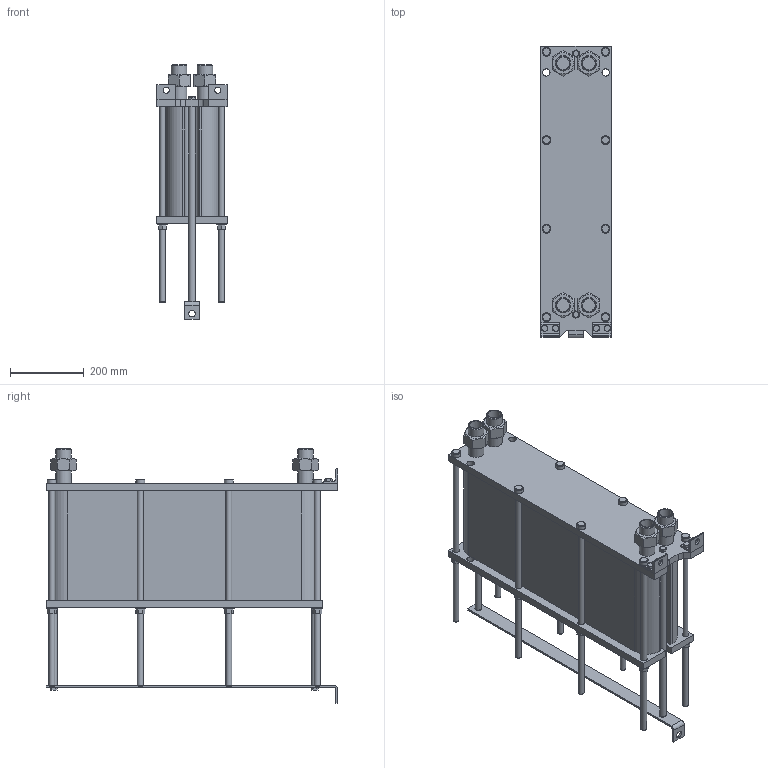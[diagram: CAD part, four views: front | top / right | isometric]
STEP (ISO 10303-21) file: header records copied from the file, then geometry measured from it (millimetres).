
FILE_DESCRIPTION(/* description */ (''),/* implementation_level */ '2;1');
FILE_NAME(/* name */ 'C:\Users\zhuro\Desktop\ENCO\TO\ЭН-008\ЭН-0,5-008-96-1.stp',/* time_stamp */ '2022-06-06T10:54:21+03:00',/* author */ ('zhuro'),/* organization */ (''),/* preprocessor_version */ 'ST-DEVELOPER v18.1',/* originating_system */ 'Autodesk Inventor 2022',/* authorisation */ '');
FILE_SCHEMA (('AUTOMOTIVE_DESIGN { 1 0 10303 214 3 1 1 }'));
Length unit declared in the file: millimetre
Products named in the file (1): ЭН-0,5-008-96-1
Bounding box: 190 x 790 x 689.8 mm (x, y, z)
Volume: 37290270.5 mm3; surface area: 1987689.5 mm2
Topology: 40 solids, 40 shells, 428 faces, 924 edges, 606 vertices
Faces by surface type: plane 273, cylinder 109, cone 40, torus 6
Full cylindrical faces by diameter (mm): 12 x6, 14 x2, 16 x20, 17 x8, 18 x19, 20 x5, 24 x8, 28 x8, 34.3 x8, 42.3 x8
Entity records: 15843 total; most frequent: CARTESIAN_POINT 5991, DIRECTION 1984, ORIENTED_EDGE 1848, EDGE_CURVE 924, AXIS2_PLACEMENT_3D 715, VERTEX_POINT 606, LINE 554, VECTOR 554
